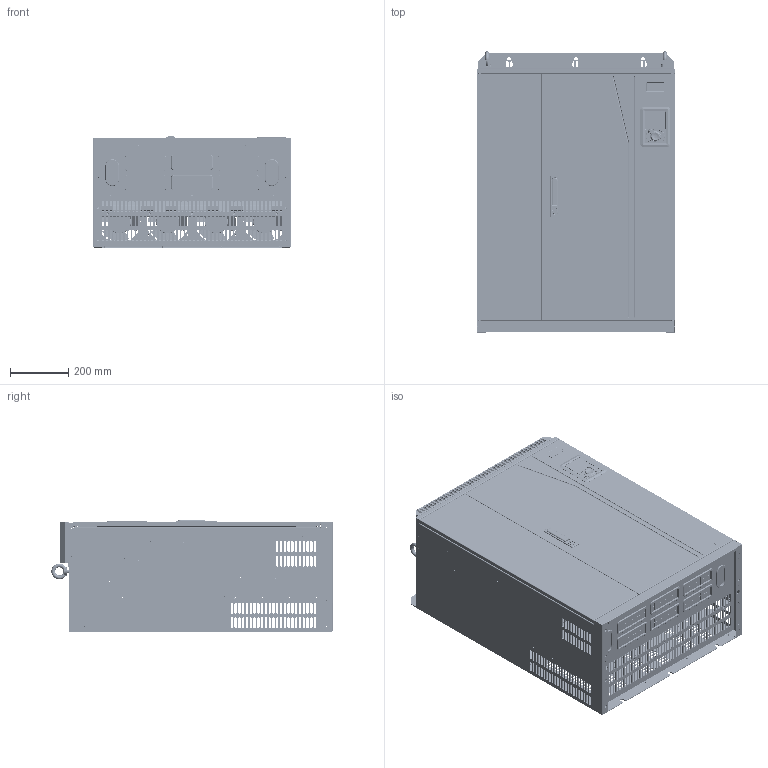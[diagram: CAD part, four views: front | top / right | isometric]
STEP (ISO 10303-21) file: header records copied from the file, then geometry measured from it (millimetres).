
FILE_DESCRIPTION((''),'2;1');
FILE_NAME('Open CASCADE Shape Model','2021-03-30T09:28:32',( 'Administrator'),(''),'Open CASCADE STEP processor 7.6', 'PRO/ENGINEER BY PARAMETRIC TECHNOLOGY CORPORATION, 2010100','Unknown' );
FILE_SCHEMA(('AUTOMOTIVE_DESIGN_CC2 { 1 2 10303 214 -1 1 5 4 }'));
Length unit declared in the file: millimetre
Products named in the file (114): GD350-315G-4_ASM; 40800961_ASM; 61061125_ASM; 80380118_ASM; 80380118; S-M5-ZC; S-M4-ZC; 80381360_ASM; 80381360; S-M6-ZC; BSO-M4-12-ZC; 80380122; 80380113_ASM; 80380113; S-M8-ZC; 80380128_ASM; 80380128; 80380120_ASM; 80380120; 80380132; 80380125_ASM; 80380125; 80380126_ASM; 80380126; 80380127_ASM; 80380127; 80380121_ASM; 80380121; NZ-M12-ZC; 80380115; 80380191; 80310020; MT100-JEIDI; GB12617_4_4X10_SL; 61761095_ASM; 80384723_ASM; 80384723; 80384723SY; CL225-1A_Y_ASM; CL225-1A-01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
Assembly tree (446 placements, depth 6):
  GD350-315G-4_ASM
    40800961_ASM
      61061125_ASM
        80380118_ASM
          80380118
          S-M5-ZC  x2
          S-M4-ZC  x16
        80381360_ASM
          80381360
          S-M6-ZC  x9
          S-M4-ZC  x13
          BSO-M4-12-ZC  x2
          S-M5-ZC  x7
        80380122
        80380113_ASM
          80380113
          S-M8-ZC  x8
          S-M5-ZC  x6
        80380128_ASM
          80380128
          S-M4-ZC  x58
          S-M6-ZC  x9
        80380120_ASM  x2
          80380120
          S-M4-ZC
        80380132
        80380125_ASM
          80380125
          S-M4-ZC  x2
        80380126_ASM  x4
          80380126
          S-M4-ZC
        80380127_ASM  x4
          80380127
          S-M8-ZC
        80380121_ASM  x2
          80380121
          NZ-M12-ZC
        80380115
        80380191
        80310020  x2
        MT100-JEIDI  x2
        GB12617_4_4X10_SL  x111
      61761095_ASM
        80384723_ASM
          80384723
        80384723SY
        CL225-1A_Y_ASM
          CL225-1A-01
          CL225-1A-02
          GB896-86-5
          CL225-1A-03
        FUJIAN
        MS818-1S_ASM
          MS818-01
          MS818-02
          MS818-03
          MS818-04
          S1C7200-LF09
          MS818-06
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Bounding box: 680.7 x 965.72 x 387.5 mm (x, y, z)
Volume: 12016458.7 mm3; surface area: 9837046 mm2
Topology: 458 solids, 465 shells, 27659 faces, 71025 edges, 45500 vertices
Faces by surface type: plane 16491, cylinder 6875, cone 2615, torus 695, bspline 688, sphere 170, extrusion 124, revolution 1
Entity records: 381547 total; most frequent: CARTESIAN_POINT 108637, DIRECTION 56330, ORIENTED_EDGE 56006, EDGE_CURVE 28027, AXIS2_PLACEMENT_3D 19870, VERTEX_POINT 17757, VECTOR 16589, LINE 16469
